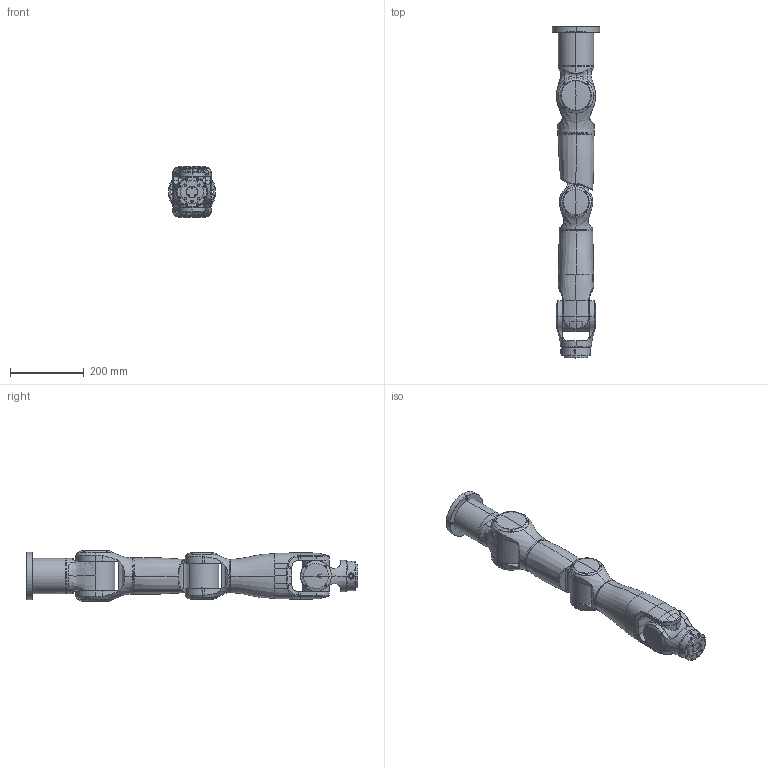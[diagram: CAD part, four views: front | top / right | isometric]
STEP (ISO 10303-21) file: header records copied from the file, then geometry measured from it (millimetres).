
FILE_DESCRIPTION (( 'STEP AP203' ), '1' );
FILE_NAME ('RD40-ART7-R7（R）-本体总装-外发模型-V1.0002.STEP', '2026-08-27T00:41:51', ( '' ), ( '' ), 'SwSTEP 2.0', 'SolidWorks 2018', '' );
FILE_SCHEMA (( 'CONFIG_CONTROL_DESIGN' ));
Length unit declared in the file: millimetre
Products named in the file (9): RD40-ART7-R7-R-5; RD40-ART7-R7-R-6; RD40-ART7-R7-R-4; RD40-ART7-R7-R-7; RD40-ART7-R7（R）-本体总装-外发模型-V1.0002; RD40-ART7-R7-R-2; RD40-ART7-R7-R-1; RD40-ART7-R7-R-8; RD40-ART7-R7-R-3
Assembly tree (8 placements, depth 2):
  RD40-ART7-R7（R）-本体总装-外发模型-V1.0002
    RD40-ART7-R7-R-1
    RD40-ART7-R7-R-2
    RD40-ART7-R7-R-3
    RD40-ART7-R7-R-4
    RD40-ART7-R7-R-5
    RD40-ART7-R7-R-6
    RD40-ART7-R7-R-7
    RD40-ART7-R7-R-8
Bounding box: 128 x 902.9 x 138 mm (x, y, z)
Volume: 7238811.6 mm3; surface area: 555954.2 mm2
Topology: 17 solids, 57 shells, 1754 faces, 4224 edges, 2623 vertices
Faces by surface type: plane 776, cylinder 463, bspline 253, cone 242, torus 20
Entity records: 89212 total; most frequent: CARTESIAN_POINT 49567, ORIENTED_EDGE 8244, DIRECTION 7557, EDGE_CURVE 4122, AXIS2_PLACEMENT_3D 2835, VERTEX_POINT 2623, EDGE_LOOP 1947, LINE 1887
